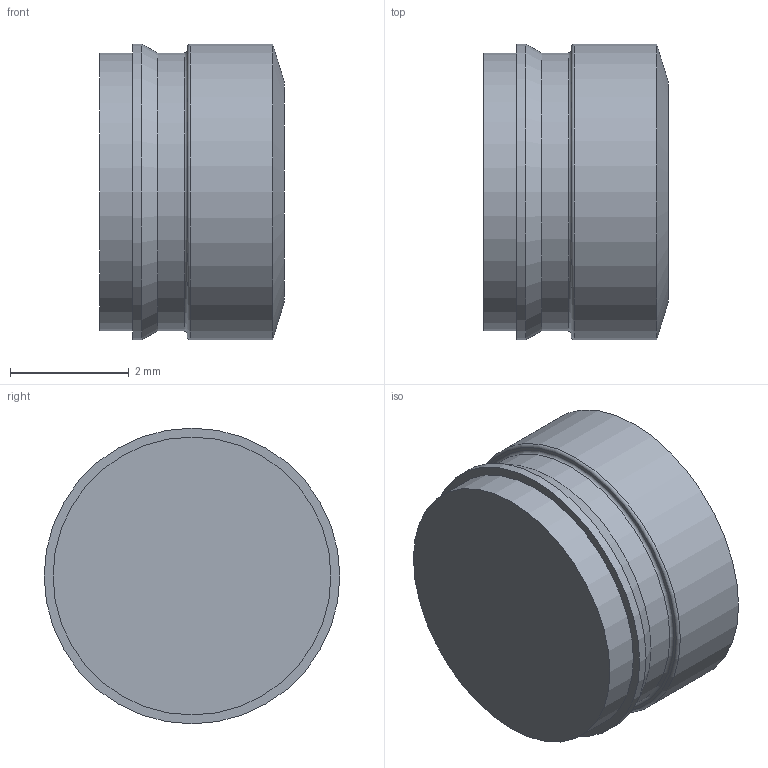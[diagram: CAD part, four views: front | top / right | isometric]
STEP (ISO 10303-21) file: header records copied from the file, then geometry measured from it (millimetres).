
FILE_DESCRIPTION(/* description */ ('LEE DL SERIES PLUG, 5 mm'),/* implementation_level */ '2;1');
FILE_NAME(/* name */ '\\absolute\SmWork\Vernon\DLPM0510100S.stp',/* time_stamp */ '2023-01-11T14:51:22-05:00',/* author */ ('VernonJ'),/* organization */ (''),/* preprocessor_version */ 'ST-DEVELOPER v18.1',/* originating_system */ 'Autodesk Inventor 2020',/* authorisation */ '');
FILE_SCHEMA (('AUTOMOTIVE_DESIGN { 1 0 10303 214 3 1 1 }'));
Length unit declared in the file: millimetre
Products named in the file (1): DLPM0510100S
Bounding box: 3.12 x 4.99 x 4.99 mm (x, y, z)
Volume: 57.4 mm3; surface area: 86.4 mm2
Topology: 1 solids, 1 shells, 12 faces, 32 edges, 24 vertices
Faces by surface type: cylinder 4, plane 4, cone 2, torus 2
Full cylindrical faces by diameter (mm): 4.69 x2, 4.99 x2
Entity records: 447 total; most frequent: DIRECTION 84, CARTESIAN_POINT 69, ORIENTED_EDGE 64, AXIS2_PLACEMENT_3D 39, EDGE_CURVE 32, CIRCLE 26, VERTEX_POINT 24, EDGE_LOOP 14
